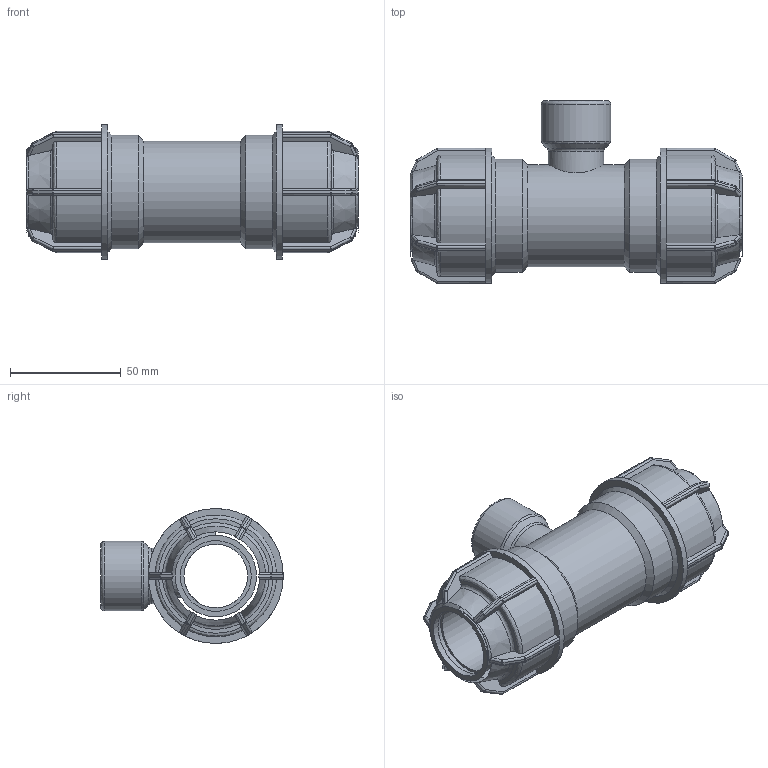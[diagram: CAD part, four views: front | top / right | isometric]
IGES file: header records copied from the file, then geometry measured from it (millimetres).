
Global section: file name: 141400032007.ipt; native system: Autodesk Inventor 2015; preprocessor: unknown; author: KIM; date: 20180416.111607; units: millimetre
Bounding box: 150 x 82.5 x 61 mm (x, y, z)
Volume: 189312 mm3; surface area: 51437 mm2
Topology: 1 solids, 1 shells, 412 faces, 1000 edges, 585 vertices
Faces by surface type: plane 194, cylinder 115, sphere 48, revolution 38, cone 17
Full cylindrical faces by diameter (mm): 25.082 x1, 31.352 x1, 46.08 x1, 51.2 x2, 61 x2
